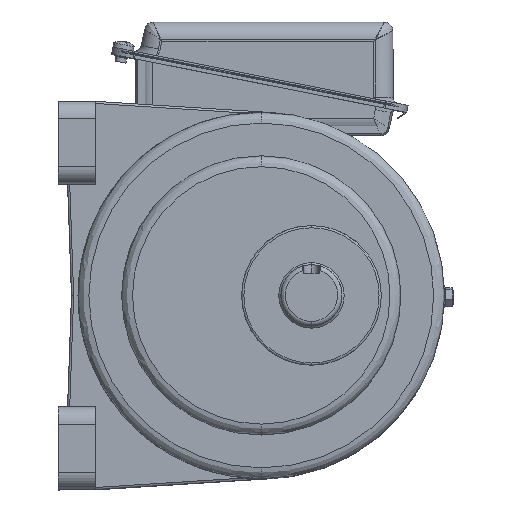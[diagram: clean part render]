
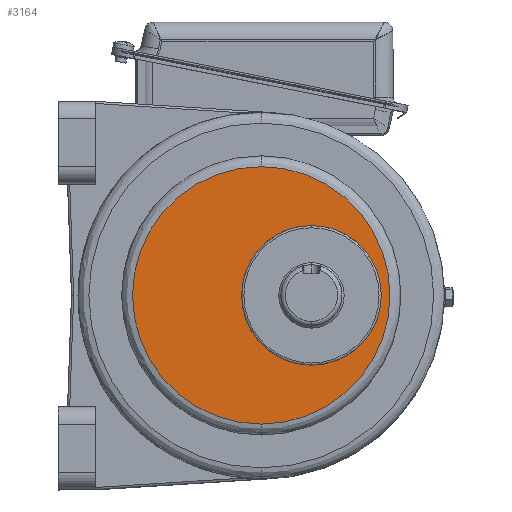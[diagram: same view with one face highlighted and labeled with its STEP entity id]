
A CAD part, top view. The second image highlights one B-rep face of the part: STEP entity #3164.
In plain terms, the highlighted planar face has unit normal (0, 0, 1).
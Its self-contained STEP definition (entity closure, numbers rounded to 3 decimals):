
#3164 = ADVANCED_FACE ( 'NONE', ( #40519, #40524 ), #32362, .T. ) ;
#3555 = VERTEX_POINT ( 'NONE', #33826 ) ;
#3592 = VERTEX_POINT ( 'NONE', #33863 ) ;
#6050 = CARTESIAN_POINT ( 'NONE',  ( 0., 23., 94.5 ) ) ;
#6054 = DIRECTION ( 'NONE',  ( 0., 0., 1. ) ) ;
#6055 = DIRECTION ( 'NONE',  ( 1., 0., 0. ) ) ;
#6381 = CARTESIAN_POINT ( 'NONE',  ( 32., 23., 94.5 ) ) ;
#6382 = CARTESIAN_POINT ( 'NONE',  ( -32., 23., 94.5 ) ) ;
#11239 = EDGE_LOOP ( 'NONE', ( #23340, #23314 ) ) ;
#11409 = EDGE_LOOP ( 'NONE', ( #23312, #23389 ) ) ;
#12467 = AXIS2_PLACEMENT_3D ( 'NONE', #38691, #38692, #38693 ) ;
#12496 = AXIS2_PLACEMENT_3D ( 'NONE', #38829, #38830, #38831 ) ;
#17279 = EDGE_CURVE ( 'NONE', #29128, #29129, #20058, .T. ) ;
#17318 = EDGE_CURVE ( 'NONE', #3592, #3555, #20079, .T. ) ;
#19220 = AXIS2_PLACEMENT_3D ( 'NONE', #44709, #44710, #44711 ) ;
#20058 = CIRCLE ( 'NONE', #12467, 32. ) ;
#20079 = CIRCLE ( 'NONE', #12496, 59. ) ;
#20207 = CIRCLE ( 'NONE', #19220, 59. ) ;
#23312 = ORIENTED_EDGE ( 'NONE', *, *, #23577, .T. ) ;
#23314 = ORIENTED_EDGE ( 'NONE', *, *, #28886, .F. ) ;
#23340 = ORIENTED_EDGE ( 'NONE', *, *, #17279, .F. ) ;
#23389 = ORIENTED_EDGE ( 'NONE', *, *, #17318, .T. ) ;
#23577 = EDGE_CURVE ( 'NONE', #3555, #3592, #20207, .T. ) ;
#26742 = AXIS2_PLACEMENT_3D ( 'NONE', #6050, #6054, #6055 ) ;
#28886 = EDGE_CURVE ( 'NONE', #29129, #29128, #46125, .T. ) ;
#29128 = VERTEX_POINT ( 'NONE', #6381 ) ;
#29129 = VERTEX_POINT ( 'NONE', #6382 ) ;
#32362 = PLANE ( 'NONE',  #40526 ) ;
#32363 = CARTESIAN_POINT ( 'NONE',  ( 0., 0., 94.5 ) ) ;
#32364 = DIRECTION ( 'NONE',  ( 0., 0., 1. ) ) ;
#32365 = DIRECTION ( 'NONE',  ( 1., 0., 0. ) ) ;
#33826 = CARTESIAN_POINT ( 'NONE',  ( 59., 0., 94.5 ) ) ;
#33863 = CARTESIAN_POINT ( 'NONE',  ( -59., 0., 94.5 ) ) ;
#38691 = CARTESIAN_POINT ( 'NONE',  ( 0., 23., 94.5 ) ) ;
#38692 = DIRECTION ( 'NONE',  ( 0., 0., 1. ) ) ;
#38693 = DIRECTION ( 'NONE',  ( 1., 0., 0. ) ) ;
#38829 = CARTESIAN_POINT ( 'NONE',  ( 0., 0., 94.5 ) ) ;
#38830 = DIRECTION ( 'NONE',  ( 0., 0., 1. ) ) ;
#38831 = DIRECTION ( 'NONE',  ( 1., 0., 0. ) ) ;
#40519 = FACE_BOUND ( 'NONE', #11239, .T. ) ;
#40524 = FACE_OUTER_BOUND ( 'NONE', #11409, .T. ) ;
#40526 = AXIS2_PLACEMENT_3D ( 'NONE', #32363, #32364, #32365 ) ;
#44709 = CARTESIAN_POINT ( 'NONE',  ( 0., 0., 94.5 ) ) ;
#44710 = DIRECTION ( 'NONE',  ( 0., 0., 1. ) ) ;
#44711 = DIRECTION ( 'NONE',  ( 1., 0., 0. ) ) ;
#46125 = CIRCLE ( 'NONE', #26742, 32. ) ;
